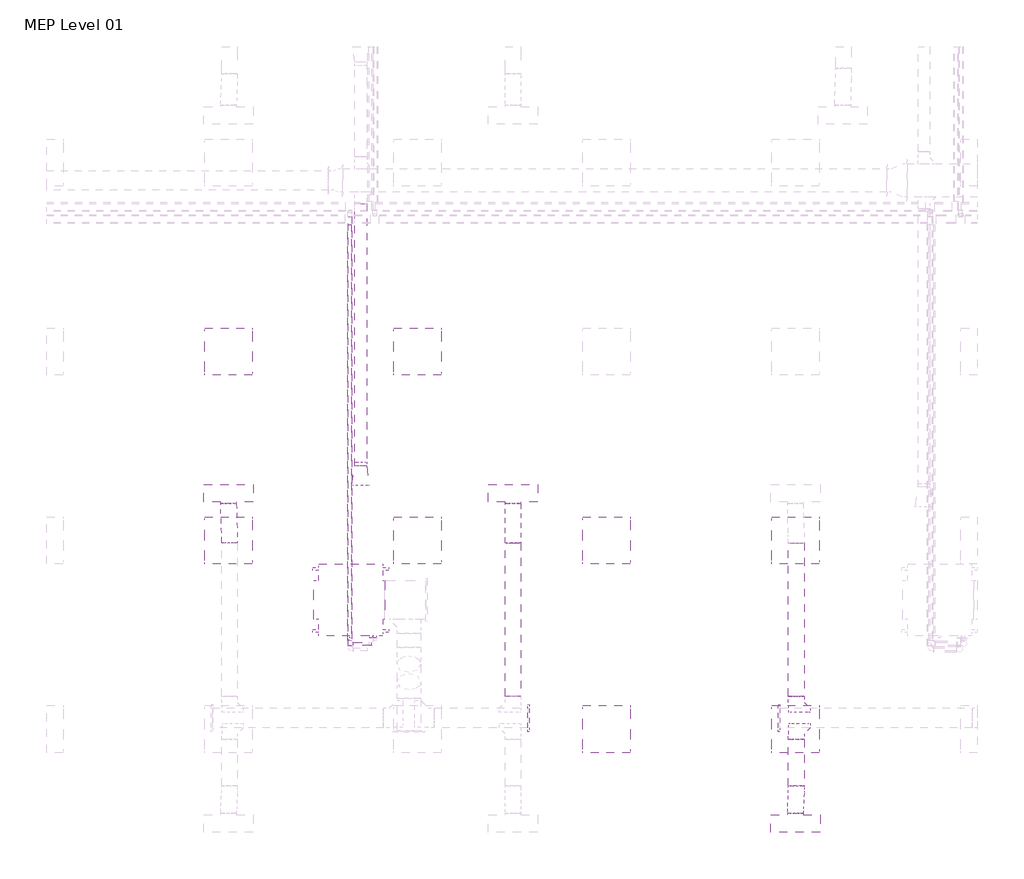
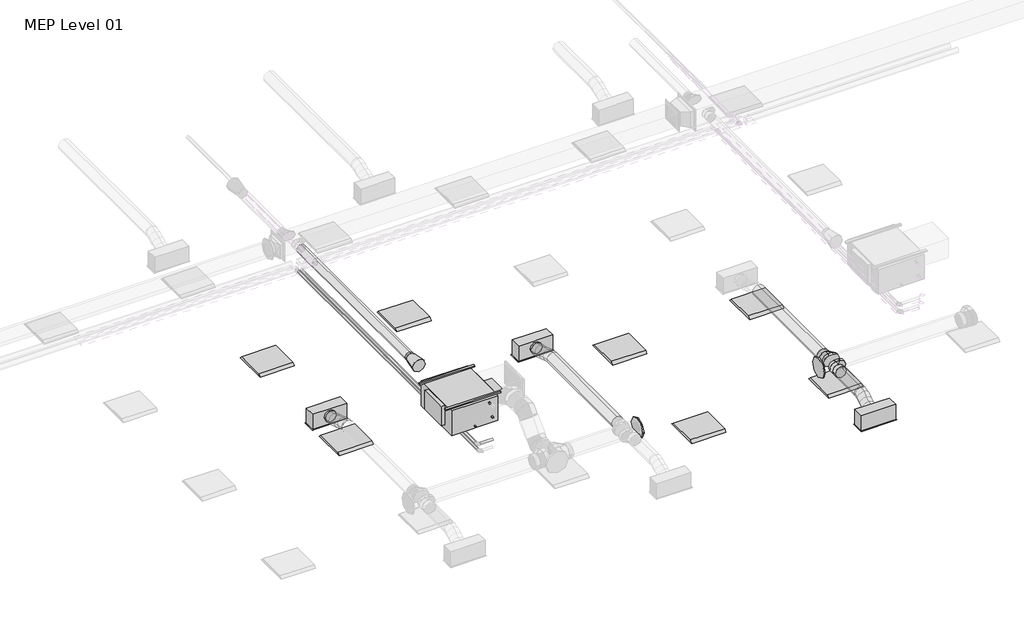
# One storey, part 7 of 29: 8 light fixtures, 7 duct segments, 4 air terminals, 4 duct fittings, 3 pipe segments, 1 proxy.
"""IFC4 building model written with IfcOpenShell, lengths in millimetres."""

from ifc_helpers import new_model, si_unit, point, frame, frame_2d, origin, place, context, project, spatial, circle_curve, ellipse_curve, trimmed, segment, composite_curve, outline, extrude, transform, mapped, element, save
from ifc_brep_helpers import plane_surface, cylinder_surface, advanced_brep
from components import air_terminal_0d1c431e, supply_diffuser_with_plenum_linear_slot_hosted_8c379eed, fan_coil_unit_ceiling_ducted_chw_376_lps_48d57206, dw144_round_blank_end_standard_9aa061e7, dw144_round_shoe_branch_slip_joint_standard_15a2edd8, light_fixture_600x600_230_1c7c1157, light_fixture_600x600_230_b730b5ca

model = new_model("IFC4")

# Units and contexts
model_context = context("Model", 3, world=origin())
ifc_project = project(units=[si_unit("LENGTHUNIT", "METRE", prefix="MILLI")], contexts=[model_context])

# Site, building, storey
site = spatial("IfcSite", under=ifc_project)
building = spatial("IfcBuilding", under=site)
storey = spatial("IfcBuildingStorey", under=building, Name="MEP Level 01", Elevation=3900.0)

# Air terminals
placement = place(None, origin())
air_terminal_shape = air_terminal_0d1c431e(model_context)
element("IfcAirTerminal", 1, ObjectType="Supply_Bell_Mouth_Grille : Supply_Bell_Mouth_Grille", at=placement, inside=storey, context=model_context, shape_type="MappedRepresentation", body=[
    mapped(air_terminal_shape, transform((18039.0080407, 5510.2561435, 7072.5), x_axis=(0.0, -1.0, 0.0), y_axis=(1.0, 0.0, 0.0), z_axis=(0.0, 0.0, 1.0))),
])
supply_diffuser_with_plenum_linear_slot_hosted_shape = supply_diffuser_with_plenum_linear_slot_hosted_8c379eed(model_context)
element("IfcAirTerminal", 2, ObjectType="Supply Diffuser with Plenum - Linear Slot - Hosted : 600mmx193.8mm-200 In Inlet  4-Slot", at=placement, inside=storey, context=model_context, shape_type="MappedRepresentation", body=[
    mapped(supply_diffuser_with_plenum_linear_slot_hosted_shape, transform((23562.2000027, 963.2000004, 6700.0), x_axis=(1.0, 0.0, 0.0), y_axis=(0.0, -1.0, 0.0), z_axis=(0.0, 0.0, -1.0))),
])
element("IfcAirTerminal", 3, ObjectType="Supply Diffuser with Plenum - Linear Slot - Hosted : 600mmx193.8mm-200 In Inlet  4-Slot", at=placement, inside=storey, context=model_context, shape_type="MappedRepresentation", body=[
    mapped(supply_diffuser_with_plenum_linear_slot_hosted_shape, transform((16362.2000027, 5163.2000004, 6700.0), x_axis=(-1.0, 0.0, 0.0), y_axis=(0.0, 1.0, 0.0), z_axis=(0.0, 0.0, -1.0))),
])
element("IfcAirTerminal", 4, ObjectType="Supply Diffuser with Plenum - Linear Slot - Hosted : 600mmx193.8mm-200 In Inlet  4-Slot", at=placement, inside=storey, context=model_context, shape_type="MappedRepresentation", body=[
    mapped(supply_diffuser_with_plenum_linear_slot_hosted_shape, transform((19973.9000022, 5163.2000004, 6700.0), x_axis=(-1.0, 0.0, 0.0), y_axis=(0.0, 1.0, 0.0), z_axis=(0.0, 0.0, -1.0))),
])

# Proxy
fan_coil_unit_ceiling_ducted_chw_376_lps_shape = fan_coil_unit_ceiling_ducted_chw_376_lps_48d57206(model_context)
element("IfcBuildingElementProxy", 5, Name="Fan Coil Unit - Ceiling Ducted - CHW : 376 LPS", ObjectType="Fan Coil Unit - Ceiling Ducted - CHW : 376 LPS", at=placement, inside=storey, context=model_context, shape_type="MappedRepresentation", body=[
    mapped(fan_coil_unit_ceiling_ducted_chw_376_lps_shape, transform((18321.2561025, 4263.2000004, 7122.3911538), x_axis=(0.0, -1.0, 0.0), y_axis=(1.0, 0.0, 0.0), z_axis=(0.0, 0.0, 1.0))),
])

# Duct fittings
dw144_round_blank_end_standard_shape = dw144_round_blank_end_standard_9aa061e7(model_context)
element("IfcDuctFitting", 6, ObjectType="DW144 Round Blank End : Standard", at=placement, inside=storey, context=model_context, shape_type="MappedRepresentation", body=[
    mapped(dw144_round_blank_end_standard_shape, transform((20161.4561025, 2306.5018192, 6972.2088531), x_axis=(1.0, 0.0, 0.0), y_axis=(0.0, 1.0, 0.0), z_axis=(0.0, 0.0, 1.0))),
])
element("IfcDuctFitting", 7, ObjectType="DW144 Round Blank End : Standard", at=placement, inside=storey, context=model_context, shape_type="MappedRepresentation", body=[
    mapped(dw144_round_blank_end_standard_shape, transform((23361.4561025, 2306.5018192, 6972.2088531), x_axis=(-1.0, 0.0, 0.0), y_axis=(0.0, -1.0, 0.0), z_axis=(0.0, 0.0, 1.0))),
])
dw144_round_shoe_branch_slip_joint_standard_shape = dw144_round_shoe_branch_slip_joint_standard_15a2edd8(model_context)
element("IfcDuctFitting", 8, ObjectType="DW144 Round Shoe Branch - Slip Joint : Standard", at=placement, inside=storey, context=model_context, shape_type="MappedRepresentation", body=[
    mapped(dw144_round_shoe_branch_slip_joint_standard_shape, transform((23573.9000022, 2181.5018192, 6972.2088531), x_axis=(0.0, -1.0, 0.0), y_axis=(-1.0, 0.0, 0.0), z_axis=(0.0, 0.0, -1.0))),
])
element("IfcDuctFitting", 9, ObjectType="DW144 Round Shoe Branch - Slip Joint : Standard", at=placement, inside=storey, context=model_context, shape_type="MappedRepresentation", body=[
    mapped(dw144_round_shoe_branch_slip_joint_standard_shape, transform((23573.9000022, 2431.5018192, 6972.2088531), x_axis=(0.0, 1.0, 0.0), y_axis=(-1.0, 0.0, 0.0), z_axis=(0.0, 0.0, 1.0))),
])

# Duct segments
element("IfcDuctSegment", 10, ObjectType="DW144 Segmented Bend / Shoe Branch", at=placement, inside=storey, context=model_context, shape_type="SweptSolid", body=[
    extrude(outline(composite_curve([segment(trimmed(circle_curve(frame_2d((6972.2088531, 19973.9000022)), 100.0), [point((6972.2088531, 20073.9000022))], [point((7072.2088531, 19973.9000022))], False, "CARTESIAN"), True, "CONTINUOUS"), segment(trimmed(circle_curve(frame_2d((6972.2088531, 19973.9000022)), 100.0), [point((7072.2088531, 19973.9000022))], [point((6972.2088531, 19873.9000022))], False, "CARTESIAN"), True, "CONTINUOUS"), segment(trimmed(circle_curve(frame_2d((6972.2088531, 19973.9000022)), 100.0), [point((6972.2088531, 19873.9000022))], [point((6872.2088531, 19973.9000022))], False, "CARTESIAN"), True, "CONTINUOUS"), segment(trimmed(circle_curve(frame_2d((6972.2088531, 19973.9000022)), 100.0), [point((6872.2088531, 19973.9000022))], [point((6972.2088531, 20073.9000022))], False, "CARTESIAN"), True, "CONTINUOUS")], self_intersect=False)), frame((0.0, 2581.5018192, 0.0), z_axis=(0.0, 1.0, 0.0), x_axis=(0.0, 0.0, 1.0)), (0.0, 0.0, 1.0), 1950.0),
])
element("IfcDuctSegment", 11, ObjectType="DW144 Segmented Bend / Shoe Branch", at=placement, inside=storey, context=model_context, shape_type="SweptSolid", body=[
    extrude(outline(composite_curve([segment(trimmed(circle_curve(frame_2d((6972.2088531, 23573.9000022)), 100.0), [point((6972.2088531, 23673.9000022))], [point((7072.2088531, 23573.9000022))], False, "CARTESIAN"), True, "CONTINUOUS"), segment(trimmed(circle_curve(frame_2d((6972.2088531, 23573.9000022)), 100.0), [point((7072.2088531, 23573.9000022))], [point((6972.2088531, 23473.9000022))], False, "CARTESIAN"), True, "CONTINUOUS"), segment(trimmed(circle_curve(frame_2d((6972.2088531, 23573.9000022)), 100.0), [point((6972.2088531, 23473.9000022))], [point((6872.2088531, 23573.9000022))], False, "CARTESIAN"), True, "CONTINUOUS"), segment(trimmed(circle_curve(frame_2d((6972.2088531, 23573.9000022)), 100.0), [point((6872.2088531, 23573.9000022))], [point((6972.2088531, 23673.9000022))], False, "CARTESIAN"), True, "CONTINUOUS")], self_intersect=False)), frame((0.0, 1441.5018192, 0.0), z_axis=(0.0, 1.0, 0.0), x_axis=(0.0, 0.0, 1.0)), (0.0, 0.0, 1.0), 590.0),
])
element("IfcDuctSegment", 12, ObjectType="DW144 Segmented Bend / Shoe Branch", at=placement, inside=storey, context=model_context, shape_type="SweptSolid", body=[
    extrude(outline(composite_curve([segment(trimmed(circle_curve(frame_2d((6972.2088531, 23573.9000022)), 100.0), [point((6972.2088531, 23673.9000022))], [point((7072.2088531, 23573.9000022))], False, "CARTESIAN"), True, "CONTINUOUS"), segment(trimmed(circle_curve(frame_2d((6972.2088531, 23573.9000022)), 100.0), [point((7072.2088531, 23573.9000022))], [point((6972.2088531, 23473.9000022))], False, "CARTESIAN"), True, "CONTINUOUS"), segment(trimmed(circle_curve(frame_2d((6972.2088531, 23573.9000022)), 100.0), [point((6972.2088531, 23473.9000022))], [point((6872.2088531, 23573.9000022))], False, "CARTESIAN"), True, "CONTINUOUS"), segment(trimmed(circle_curve(frame_2d((6972.2088531, 23573.9000022)), 100.0), [point((6872.2088531, 23573.9000022))], [point((6972.2088531, 23673.9000022))], False, "CARTESIAN"), True, "CONTINUOUS")], self_intersect=False)), frame((0.0, 2581.5018192, 0.0), z_axis=(0.0, 1.0, 0.0), x_axis=(0.0, 0.0, 1.0)), (0.0, 0.0, 1.0), 1950.0),
])
element("IfcDuctSegment", 13, ObjectType="DW144 Segmented Bend / Shoe Branch", at=placement, inside=storey, context=model_context, shape_type="SweptSolid", body=[
    extrude(outline(composite_curve([segment(trimmed(circle_curve(frame_2d((7072.5, 18039.0080407)), 75.0), [point((7072.5, 17964.0080407))], [point((6997.5, 18039.0080407))], False, "CARTESIAN"), True, "CONTINUOUS"), segment(trimmed(circle_curve(frame_2d((7072.5, 18039.0080407)), 75.0), [point((6997.5, 18039.0080407))], [point((7072.5, 18114.0080407))], False, "CARTESIAN"), True, "CONTINUOUS"), segment(trimmed(circle_curve(frame_2d((7072.5, 18039.0080407)), 75.0), [point((7072.5, 18114.0080407))], [point((7147.5, 18039.0080407))], False, "CARTESIAN"), True, "CONTINUOUS"), segment(trimmed(circle_curve(frame_2d((7072.5, 18039.0080407)), 75.0), [point((7147.5, 18039.0080407))], [point((7072.5, 17964.0080407))], False, "CARTESIAN"), True, "CONTINUOUS")], self_intersect=False)), frame((0.0, 5510.2561435, 0.0), z_axis=(0.0, 1.0, 0.0), x_axis=(0.0, 0.0, 1.0)), (0.0, 0.0, 1.0), 3329.1601689),
])
element("IfcDuctSegment", 14, ObjectType="Flex - Round", at=placement, inside=storey, context=model_context, shape_type="AdvancedBrep", body=[
    advanced_brep(
    [(16273.9000022, 4531.5018192, 6972.2088531), (16373.9000022, 4531.5018192, 6872.2088531), (16473.9000022, 4531.5018192, 6972.2088531), (16373.9000022, 4531.5018192, 7072.2088531), (16273.9000022, 4545.0398748, 6972.2088531), (16373.9000022, 4537.729612, 6872.2088531), (16473.9000022, 4546.6519942, 6972.2088531), (16373.9000022, 4553.962257, 7072.2088531), (16262.2000027, 5034.3000004, 6854.4), (16362.2000027, 5034.3000004, 6954.4), (16462.2000027, 5034.3000004, 6854.4), (16362.2000027, 5034.3000004, 6754.4), (16272.0969471, 4656.1396088, 6954.0536514), (16372.3243089, 4634.8198875, 6856.3429867), (16472.0468075, 4660.8412095, 6953.5487883), (16371.8194457, 4682.1609309, 7051.2594529), (16268.0984043, 4779.8283707, 6913.7917909), (16368.5373668, 4751.9631047, 6818.2117629), (16468.0016006, 4785.9734489, 6912.8170622), (16367.5626381, 4813.8387149, 7008.3970903), (16264.0531974, 4904.9606101, 6873.0600649), (16364.2805591, 4883.6408888, 6775.3494002), (16464.0030578, 4909.6622108, 6872.5552017), (16363.775696, 4930.9819322, 6970.2658664), (16262.2000027, 5019.1498254, 6854.4), (16362.2000027, 5011.8395627, 6754.4), (16462.2000027, 5020.7619448, 6854.4), (16362.2000027, 5028.0722076, 6954.4)],
    [
        (0, 1, circle_curve(frame((16373.9000022, 4531.5018192, 6972.2088531), z_axis=(0.0, -1.0, 0.0), x_axis=(-1.0, 0.0, 0.0)), 100.0)),
        (1, 2, circle_curve(frame((16373.9000022, 4531.5018192, 6972.2088531), z_axis=(0.0, -1.0, 0.0), x_axis=(-1.0, 0.0, 0.0)), 100.0)),
        (2, 3, circle_curve(frame((16373.9000022, 4531.5018192, 6972.2088531), z_axis=(0.0, -1.0, 0.0), x_axis=(-1.0, 0.0, 0.0)), 100.0)),
        (3, 0, circle_curve(frame((16373.9000022, 4531.5018192, 6972.2088531), z_axis=(0.0, -1.0, 0.0), x_axis=(-1.0, 0.0, 0.0)), 100.0)),
        (0, 4),
        (4, 5, ellipse_curve(frame((16373.9000022, 4545.8459345, 6972.2088531), z_axis=(0.008033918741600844, -0.9966902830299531, 0.08089459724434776), x_axis=(-0.09850014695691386, -0.08129255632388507, -0.9918110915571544)), 100.3320708, 100.0)),
        (5, 1),
        (5, 6, ellipse_curve(frame((16373.9000022, 4545.8459345, 6972.2088531), z_axis=(0.008033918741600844, -0.9966902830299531, 0.08089459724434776), x_axis=(-0.09850014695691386, -0.08129255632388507, -0.9918110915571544)), 100.3320708, 100.0)),
        (6, 2),
        (6, 7, ellipse_curve(frame((16373.9000022, 4545.8459345, 6972.2088531), z_axis=(0.008033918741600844, -0.9966902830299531, 0.08089459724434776), x_axis=(-0.09850014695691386, -0.08129255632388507, -0.9918110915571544)), 100.3320708, 100.0)),
        (7, 3),
        (7, 4, ellipse_curve(frame((16373.9000022, 4545.8459345, 6972.2088531), z_axis=(0.008033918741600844, -0.9966902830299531, 0.08089459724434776), x_axis=(-0.09850014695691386, -0.08129255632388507, -0.9918110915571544)), 100.3320708, 100.0)),
        (8, 9, circle_curve(frame((16362.2000027, 5034.3000004, 6854.4), z_axis=(0.0, 1.0, 0.0), x_axis=(-1.0, 0.0, 0.0)), 100.0)),
        (9, 10, circle_curve(frame((16362.2000027, 5034.3000004, 6854.4), z_axis=(0.0, 1.0, 0.0), x_axis=(-1.0, 0.0, 0.0)), 100.0)),
        (10, 11, circle_curve(frame((16362.2000027, 5034.3000004, 6854.4), z_axis=(0.0, 1.0, 0.0), x_axis=(-1.0, 0.0, 0.0)), 100.0)),
        (11, 8, circle_curve(frame((16362.2000027, 5034.3000004, 6854.4), z_axis=(0.0, 1.0, 0.0), x_axis=(-1.0, 0.0, 0.0)), 100.0)),
        (4, 12),
        (12, 13, ellipse_curve(frame((16372.0718773, 4658.4904092, 6953.8012198), z_axis=(0.023438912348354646, -0.9714680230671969, 0.2360095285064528), x_axis=(-0.09600750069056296, -0.23717057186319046, -0.9667123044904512)), 100.2947714, 100.0)),
        (13, 5),
        (13, 14, ellipse_curve(frame((16372.0718773, 4658.4904092, 6953.8012198), z_axis=(0.023438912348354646, -0.9714680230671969, 0.2360095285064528), x_axis=(-0.09600750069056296, -0.23717057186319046, -0.9667123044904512)), 100.2947714, 100.0)),
        (14, 6),
        (14, 15, ellipse_curve(frame((16372.0718773, 4658.4904092, 6953.8012198), z_axis=(0.023438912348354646, -0.9714680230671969, 0.2360095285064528), x_axis=(-0.09600750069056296, -0.23717057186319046, -0.9667123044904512)), 100.2947714, 100.0)),
        (15, 7),
        (15, 12, ellipse_curve(frame((16372.0718773, 4658.4904092, 6953.8012198), z_axis=(0.023438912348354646, -0.9714680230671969, 0.2360095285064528), x_axis=(-0.09600750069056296, -0.23717057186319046, -0.9667123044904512)), 100.2947714, 100.0)),
        (12, 16),
        (16, 17, circle_curve(frame((16368.0500024, 4782.9009098, 6913.3044266), z_axis=(0.03072539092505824, -0.9504426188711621, 0.30937805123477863), x_axis=(-0.999515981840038, -0.030725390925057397, 0.004873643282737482)), 100.0)),
        (17, 13),
        (17, 18, circle_curve(frame((16368.0500024, 4782.9009098, 6913.3044266), z_axis=(0.03072539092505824, -0.9504426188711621, 0.30937805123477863), x_axis=(-0.999515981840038, -0.030725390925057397, 0.004873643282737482)), 100.0)),
        (18, 14),
        (18, 19, circle_curve(frame((16368.0500024, 4782.9009098, 6913.3044266), z_axis=(0.03072539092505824, -0.9504426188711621, 0.30937805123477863), x_axis=(-0.999515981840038, -0.030725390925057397, 0.004873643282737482)), 100.0)),
        (19, 15),
        (19, 16, circle_curve(frame((16368.0500024, 4782.9009098, 6913.3044266), z_axis=(0.03072539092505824, -0.9504426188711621, 0.30937805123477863), x_axis=(-0.999515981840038, -0.030725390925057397, 0.004873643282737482)), 100.0)),
        (16, 20),
        (20, 21, ellipse_curve(frame((16364.0281276, 4907.3114105, 6872.8076333), z_axis=(0.023438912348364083, -0.9714680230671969, 0.23600952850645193), x_axis=(0.0960075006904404, 0.23717057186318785, 0.966712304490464)), 100.2947714, 100.0)),
        (21, 17),
        (21, 22, ellipse_curve(frame((16364.0281276, 4907.3114105, 6872.8076333), z_axis=(0.023438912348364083, -0.9714680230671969, 0.23600952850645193), x_axis=(0.0960075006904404, 0.23717057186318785, 0.966712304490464)), 100.2947714, 100.0)),
        (22, 18),
        (22, 23, ellipse_curve(frame((16364.0281276, 4907.3114105, 6872.8076333), z_axis=(0.023438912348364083, -0.9714680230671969, 0.23600952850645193), x_axis=(0.0960075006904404, 0.23717057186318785, 0.966712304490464)), 100.2947714, 100.0)),
        (23, 19),
        (23, 20, ellipse_curve(frame((16364.0281276, 4907.3114105, 6872.8076333), z_axis=(0.023438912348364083, -0.9714680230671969, 0.23600952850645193), x_axis=(0.0960075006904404, 0.23717057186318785, 0.966712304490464)), 100.2947714, 100.0)),
        (20, 24),
        (24, 25, ellipse_curve(frame((16362.2000027, 5019.9558851, 6854.4), z_axis=(0.008033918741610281, -0.9966902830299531, 0.08089459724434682), x_axis=(0.09850014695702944, 0.0812925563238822, 0.9918110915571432)), 100.3320708, 100.0)),
        (25, 21),
        (25, 26, ellipse_curve(frame((16362.2000027, 5019.9558851, 6854.4), z_axis=(0.008033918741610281, -0.9966902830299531, 0.08089459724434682), x_axis=(0.09850014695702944, 0.0812925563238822, 0.9918110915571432)), 100.3320708, 100.0)),
        (26, 22),
        (26, 27, ellipse_curve(frame((16362.2000027, 5019.9558851, 6854.4), z_axis=(0.008033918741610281, -0.9966902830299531, 0.08089459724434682), x_axis=(0.09850014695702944, 0.0812925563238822, 0.9918110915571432)), 100.3320708, 100.0)),
        (27, 23),
        (27, 24, ellipse_curve(frame((16362.2000027, 5019.9558851, 6854.4), z_axis=(0.008033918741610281, -0.9966902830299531, 0.08089459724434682), x_axis=(0.09850014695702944, 0.0812925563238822, 0.9918110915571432)), 100.3320708, 100.0)),
        (24, 8),
        (11, 25),
        (10, 26),
        (9, 27),
    ],
    [
        plane_surface(frame((16273.9000022, 4531.5018192, 6972.2088531), z_axis=(0.0, -1.0, 0.0), x_axis=(0.0, 0.0, 1.0))),
        cylinder_surface(frame((16373.9000022, 4531.5018192, 6972.2088531), z_axis=(0.0, -1.0, 0.0), x_axis=(-1.0, 0.0, 0.0)), 100.0),
        plane_surface(frame((16262.2000027, 5034.3000004, 6854.4), z_axis=(0.0, 1.0, 0.0), x_axis=(0.0, 0.0, 1.0))),
        cylinder_surface(frame((16373.9000022, 4545.8459345, 6972.2088531), z_axis=(0.01601465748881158, -0.9867830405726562, 0.16125371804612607), x_axis=(-0.9998709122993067, -0.01601465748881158, 0.0012998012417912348)), 100.0),
        cylinder_surface(frame((16372.0718773, 4658.4904092, 6953.8012198), z_axis=(0.03072539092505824, -0.9504426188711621, 0.30937805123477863), x_axis=(-0.999515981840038, -0.030725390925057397, 0.004873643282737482)), 100.0),
        cylinder_surface(frame((16368.0500024, 4782.9009098, 6913.3044266), z_axis=(0.030725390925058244, -0.9504426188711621, 0.30937805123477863), x_axis=(-0.999515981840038, -0.0307253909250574, 0.0048736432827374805)), 100.0),
        cylinder_surface(frame((16364.0281276, 4907.3114105, 6872.8076333), z_axis=(0.016014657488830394, -0.9867830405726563, 0.16125371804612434), x_axis=(-0.9998709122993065, -0.016014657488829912, 0.0012998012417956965)), 100.0),
        cylinder_surface(frame((16362.2000027, 5019.9558851, 6854.4), z_axis=(0.0, -1.0, 0.0), x_axis=(-1.0, 0.0, 0.0)), 100.0),
    ],
    [
        (0, [[1, 2, 3, 4]]),
        (1, [[-1, 5, 6, 7]]),
        (1, [[-2, -7, 8, 9]]),
        (1, [[-3, -9, 10, 11]]),
        (1, [[-4, -11, 12, -5]]),
        (2, [[13, 14, 15, 16]]),
        (3, [[-6, 17, 18, 19]]),
        (3, [[-8, -19, 20, 21]]),
        (3, [[-10, -21, 22, 23]]),
        (3, [[-12, -23, 24, -17]]),
        (4, [[-18, 25, 26, 27]]),
        (4, [[-20, -27, 28, 29]]),
        (4, [[-22, -29, 30, 31]]),
        (4, [[-24, -31, 32, -25]]),
        (5, [[-26, 33, 34, 35]]),
        (5, [[-28, -35, 36, 37]]),
        (5, [[-30, -37, 38, 39]]),
        (5, [[-32, -39, 40, -33]]),
        (6, [[-34, 41, 42, 43]]),
        (6, [[-36, -43, 44, 45]]),
        (6, [[-38, -45, 46, 47]]),
        (6, [[-40, -47, 48, -41]]),
        (7, [[-42, 49, -16, 50]]),
        (7, [[-44, -50, -15, 51]]),
        (7, [[-46, -51, -14, 52]]),
        (7, [[-48, -52, -13, -49]]),
    ],
),
])
element("IfcDuctSegment", 15, ObjectType="Flex - Round", at=placement, inside=storey, context=model_context, shape_type="AdvancedBrep", body=[
    advanced_brep(
    [(19873.9000022, 4531.5018192, 6972.2088531), (19973.9000022, 4531.5018192, 6872.2088531), (20073.9000022, 4531.5018192, 6972.2088531), (19973.9000022, 4531.5018192, 7072.2088531), (19873.9000022, 4545.8487649, 6972.2088531), (19973.9000022, 4537.7308336, 6872.2088531), (20073.9000022, 4545.8487649, 6972.2088531), (19973.9000022, 4553.9666963, 7072.2088531), (19873.9000022, 5034.3000004, 6854.4), (19973.9000022, 5034.3000004, 6954.4), (20073.9000022, 5034.3000004, 6854.4), (19973.9000022, 5034.3000004, 6754.4), (19873.9000022, 4658.4779853, 6953.8012198), (19973.9000022, 4634.8007072, 6856.3441723), (20073.9000022, 4658.4779853, 6953.8012198), (19973.9000022, 4682.1552634, 7051.2582674), (19873.9000022, 4782.9009098, 6913.3044266), (19973.9000022, 4751.9512855, 6818.21436), (20073.9000022, 4782.9009098, 6913.3044266), (19973.9000022, 4813.8505341, 7008.3944931), (19873.9000022, 4907.3238344, 6872.8076333), (19973.9000022, 4883.6465563, 6775.3505857), (20073.9000022, 4907.3238344, 6872.8076333), (19973.9000022, 4931.0011125, 6970.2646809), (19873.9000022, 5019.9530547, 6854.4), (19973.9000022, 5011.8351234, 6754.4), (20073.9000022, 5019.9530547, 6854.4), (19973.9000022, 5028.070986, 6954.4)],
    [
        (0, 1, circle_curve(frame((19973.9000022, 4531.5018192, 6972.2088531), z_axis=(0.0, -1.0, 0.0), x_axis=(-1.0, 0.0, 0.0)), 100.0)),
        (1, 2, circle_curve(frame((19973.9000022, 4531.5018192, 6972.2088531), z_axis=(0.0, -1.0, 0.0), x_axis=(-1.0, 0.0, 0.0)), 100.0)),
        (2, 3, circle_curve(frame((19973.9000022, 4531.5018192, 6972.2088531), z_axis=(0.0, -1.0, 0.0), x_axis=(-1.0, 0.0, 0.0)), 100.0)),
        (3, 0, circle_curve(frame((19973.9000022, 4531.5018192, 6972.2088531), z_axis=(0.0, -1.0, 0.0), x_axis=(-1.0, 0.0, 0.0)), 100.0)),
        (0, 4),
        (4, 5, ellipse_curve(frame((19973.9000022, 4545.8487649, 6972.2088531), z_axis=(0.0, -0.9967211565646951, 0.08091313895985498), x_axis=(0.0, -0.08091313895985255, -0.9967211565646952)), 100.328963, 100.0)),
        (5, 1),
        (5, 6, ellipse_curve(frame((19973.9000022, 4545.8487649, 6972.2088531), z_axis=(0.0, -0.9967211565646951, 0.08091313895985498), x_axis=(0.0, -0.08091313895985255, -0.9967211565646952)), 100.328963, 100.0)),
        (6, 2),
        (6, 7, ellipse_curve(frame((19973.9000022, 4545.8487649, 6972.2088531), z_axis=(0.0, -0.9967211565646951, 0.08091313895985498), x_axis=(0.0, -0.08091313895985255, -0.9967211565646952)), 100.328963, 100.0)),
        (7, 3),
        (7, 4, ellipse_curve(frame((19973.9000022, 4545.8487649, 6972.2088531), z_axis=(0.0, -0.9967211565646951, 0.08091313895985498), x_axis=(0.0, -0.08091313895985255, -0.9967211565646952)), 100.328963, 100.0)),
        (8, 9, circle_curve(frame((19973.9000022, 5034.3000004, 6854.4), z_axis=(0.0, 1.0, 0.0), x_axis=(-1.0, 0.0, 0.0)), 100.0)),
        (9, 10, circle_curve(frame((19973.9000022, 5034.3000004, 6854.4), z_axis=(0.0, 1.0, 0.0), x_axis=(-1.0, 0.0, 0.0)), 100.0)),
        (10, 11, circle_curve(frame((19973.9000022, 5034.3000004, 6854.4), z_axis=(0.0, 1.0, 0.0), x_axis=(-1.0, 0.0, 0.0)), 100.0)),
        (11, 8, circle_curve(frame((19973.9000022, 5034.3000004, 6854.4), z_axis=(0.0, 1.0, 0.0), x_axis=(-1.0, 0.0, 0.0)), 100.0)),
        (4, 12),
        (12, 13, ellipse_curve(frame((19973.9000022, 4658.4779853, 6953.8012198), z_axis=(0.0, -0.9717328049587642, 0.23608336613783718), x_axis=(0.0, -0.23608336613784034, -0.9717328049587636)), 100.2920217, 100.0)),
        (13, 5),
        (13, 14, ellipse_curve(frame((19973.9000022, 4658.4779853, 6953.8012198), z_axis=(0.0, -0.9717328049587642, 0.23608336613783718), x_axis=(0.0, -0.23608336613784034, -0.9717328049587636)), 100.2920217, 100.0)),
        (14, 6),
        (14, 15, ellipse_curve(frame((19973.9000022, 4658.4779853, 6953.8012198), z_axis=(0.0, -0.9717328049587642, 0.23608336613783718), x_axis=(0.0, -0.23608336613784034, -0.9717328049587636)), 100.2920217, 100.0)),
        (15, 7),
        (15, 12, ellipse_curve(frame((19973.9000022, 4658.4779853, 6953.8012198), z_axis=(0.0, -0.9717328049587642, 0.23608336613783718), x_axis=(0.0, -0.23608336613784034, -0.9717328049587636)), 100.2920217, 100.0)),
        (12, 16),
        (16, 17, circle_curve(frame((19973.9000022, 4782.9009098, 6913.3044266), z_axis=(0.0, -0.9509006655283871, 0.3094962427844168), x_axis=(-1.0, 0.0, 0.0)), 100.0)),
        (17, 13),
        (17, 18, circle_curve(frame((19973.9000022, 4782.9009098, 6913.3044266), z_axis=(0.0, -0.9509006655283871, 0.3094962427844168), x_axis=(-1.0, 0.0, 0.0)), 100.0)),
        (18, 14),
        (18, 19, circle_curve(frame((19973.9000022, 4782.9009098, 6913.3044266), z_axis=(0.0, -0.9509006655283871, 0.3094962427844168), x_axis=(-1.0, 0.0, 0.0)), 100.0)),
        (19, 15),
        (19, 16, circle_curve(frame((19973.9000022, 4782.9009098, 6913.3044266), z_axis=(0.0, -0.9509006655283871, 0.3094962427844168), x_axis=(-1.0, 0.0, 0.0)), 100.0)),
        (16, 20),
        (20, 21, ellipse_curve(frame((19973.9000022, 4907.3238344, 6872.8076333), z_axis=(0.0, -0.9717328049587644, 0.23608336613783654), x_axis=(0.0, 0.2360833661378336, 0.9717328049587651)), 100.2920217, 100.0)),
        (21, 17),
        (21, 22, ellipse_curve(frame((19973.9000022, 4907.3238344, 6872.8076333), z_axis=(0.0, -0.9717328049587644, 0.23608336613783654), x_axis=(0.0, 0.2360833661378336, 0.9717328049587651)), 100.2920217, 100.0)),
        (22, 18),
        (22, 23, ellipse_curve(frame((19973.9000022, 4907.3238344, 6872.8076333), z_axis=(0.0, -0.9717328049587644, 0.23608336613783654), x_axis=(0.0, 0.2360833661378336, 0.9717328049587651)), 100.2920217, 100.0)),
        (23, 19),
        (23, 20, ellipse_curve(frame((19973.9000022, 4907.3238344, 6872.8076333), z_axis=(0.0, -0.9717328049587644, 0.23608336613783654), x_axis=(0.0, 0.2360833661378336, 0.9717328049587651)), 100.2920217, 100.0)),
        (20, 24),
        (24, 25, ellipse_curve(frame((19973.9000022, 5019.9530547, 6854.4), z_axis=(0.0, -0.9967211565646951, 0.08091313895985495), x_axis=(0.0, 0.08091313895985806, 0.9967211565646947)), 100.328963, 100.0)),
        (25, 21),
        (25, 26, ellipse_curve(frame((19973.9000022, 5019.9530547, 6854.4), z_axis=(0.0, -0.9967211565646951, 0.08091313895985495), x_axis=(0.0, 0.08091313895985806, 0.9967211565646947)), 100.328963, 100.0)),
        (26, 22),
        (26, 27, ellipse_curve(frame((19973.9000022, 5019.9530547, 6854.4), z_axis=(0.0, -0.9967211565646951, 0.08091313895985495), x_axis=(0.0, 0.08091313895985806, 0.9967211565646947)), 100.328963, 100.0)),
        (27, 23),
        (27, 24, ellipse_curve(frame((19973.9000022, 5019.9530547, 6854.4), z_axis=(0.0, -0.9967211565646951, 0.08091313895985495), x_axis=(0.0, 0.08091313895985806, 0.9967211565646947)), 100.328963, 100.0)),
        (24, 8),
        (11, 25),
        (10, 26),
        (9, 27),
    ],
    [
        plane_surface(frame((19873.9000022, 4531.5018192, 6972.2088531), z_axis=(0.0, -1.0, 0.0), x_axis=(0.0, 0.0, 1.0))),
        cylinder_surface(frame((19973.9000022, 4531.5018192, 6972.2088531), z_axis=(0.0, -1.0, 0.0), x_axis=(-1.0, 0.0, 0.0)), 100.0),
        plane_surface(frame((19873.9000022, 5034.3000004, 6854.4), z_axis=(0.0, 1.0, 0.0), x_axis=(0.0, 0.0, 1.0))),
        cylinder_surface(frame((19973.9000022, 4545.8487649, 6972.2088531), z_axis=(0.0, -0.9869061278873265, 0.16129567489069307), x_axis=(-1.0, 0.0, 0.0)), 100.0),
        cylinder_surface(frame((19973.9000022, 4658.4779853, 6953.8012198), z_axis=(0.0, -0.9509006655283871, 0.3094962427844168), x_axis=(-1.0, 0.0, 0.0)), 100.0),
        cylinder_surface(frame((19973.9000022, 4782.9009098, 6913.3044266), z_axis=(0.0, -0.9509006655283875, 0.30949624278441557), x_axis=(-1.0, 0.0, 0.0)), 100.0),
        cylinder_surface(frame((19973.9000022, 4907.3238344, 6872.8076333), z_axis=(0.0, -0.9869061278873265, 0.16129567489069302), x_axis=(-1.0, 0.0, 0.0)), 100.0),
        cylinder_surface(frame((19973.9000022, 5019.9530547, 6854.4), z_axis=(0.0, -1.0, 0.0), x_axis=(-1.0, 0.0, 0.0)), 100.0),
    ],
    [
        (0, [[1, 2, 3, 4]]),
        (1, [[-1, 5, 6, 7]]),
        (1, [[-2, -7, 8, 9]]),
        (1, [[-3, -9, 10, 11]]),
        (1, [[-4, -11, 12, -5]]),
        (2, [[13, 14, 15, 16]]),
        (3, [[-6, 17, 18, 19]]),
        (3, [[-8, -19, 20, 21]]),
        (3, [[-10, -21, 22, 23]]),
        (3, [[-12, -23, 24, -17]]),
        (4, [[-18, 25, 26, 27]]),
        (4, [[-20, -27, 28, 29]]),
        (4, [[-22, -29, 30, 31]]),
        (4, [[-24, -31, 32, -25]]),
        (5, [[-26, 33, 34, 35]]),
        (5, [[-28, -35, 36, 37]]),
        (5, [[-30, -37, 38, 39]]),
        (5, [[-32, -39, 40, -33]]),
        (6, [[-34, 41, 42, 43]]),
        (6, [[-36, -43, 44, 45]]),
        (6, [[-38, -45, 46, 47]]),
        (6, [[-40, -47, 48, -41]]),
        (7, [[-42, 49, -16, 50]]),
        (7, [[-44, -50, -15, 51]]),
        (7, [[-46, -51, -14, 52]]),
        (7, [[-48, -52, -13, -49]]),
    ],
),
])
element("IfcDuctSegment", 16, ObjectType="Flex - Round", at=placement, inside=storey, context=model_context, shape_type="AdvancedBrep", body=[
    advanced_brep(
    [(23673.9000022, 1441.5018192, 6972.2088531), (23573.9000022, 1441.5018192, 6872.2088531), (23473.9000022, 1441.5018192, 6972.2088531), (23573.9000022, 1441.5018192, 7072.2088531), (23673.9000022, 1419.9886644, 6972.2088531), (23573.9000022, 1434.4041273, 6872.2088531), (23473.9000022, 1422.5932881, 6972.2088531), (23573.9000022, 1408.1778252, 7072.2088531), (23662.2000027, 1092.1000004, 6854.4), (23562.2000027, 1092.1000004, 6954.4), (23462.2000027, 1092.1000004, 6854.4), (23562.2000027, 1092.1000004, 6754.4), (23672.0154345, 1348.8904029, 6953.2328893), (23572.6402079, 1386.8764181, 6859.5238159), (23472.1283201, 1355.7538157, 6954.3695504), (23571.5035467, 1317.7678004, 7048.0786237), (23667.9552415, 1262.5544078, 6912.3502664), (23569.0041626, 1309.5595036, 6822.9119919), (23468.1447633, 1271.0474118, 6914.2585867), (23567.0958423, 1224.0423161, 7003.6968612), (23663.9716847, 1177.8480039, 6872.2393027), (23564.5964582, 1215.8340192, 6778.5302294), (23464.0845704, 1184.7114168, 6873.3759639), (23563.459797, 1146.7254015, 6967.0850372), (23662.2000027, 1111.0085316, 6854.4), (23562.2000027, 1125.4239944, 6754.4), (23462.2000027, 1113.6131552, 6854.4), (23562.2000027, 1099.1976924, 6954.4)],
    [
        (0, 1, circle_curve(frame((23573.9000022, 1441.5018192, 6972.2088531), z_axis=(0.0, 1.0, 0.0), x_axis=(1.0, 0.0, 0.0)), 100.0)),
        (1, 2, circle_curve(frame((23573.9000022, 1441.5018192, 6972.2088531), z_axis=(0.0, 1.0, 0.0), x_axis=(1.0, 0.0, 0.0)), 100.0)),
        (2, 3, circle_curve(frame((23573.9000022, 1441.5018192, 6972.2088531), z_axis=(0.0, 1.0, 0.0), x_axis=(1.0, 0.0, 0.0)), 100.0)),
        (3, 0, circle_curve(frame((23573.9000022, 1441.5018192, 6972.2088531), z_axis=(0.0, 1.0, 0.0), x_axis=(1.0, 0.0, 0.0)), 100.0)),
        (0, 4),
        (4, 5, ellipse_curve(frame((23573.9000022, 1421.2909763, 6972.2088531), z_axis=(0.012911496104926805, 0.991428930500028, 0.13000757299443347), x_axis=(-0.0979801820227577, 0.13064714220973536, -0.986575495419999)), 100.8645168, 100.0)),
        (5, 1),
        (5, 6, ellipse_curve(frame((23573.9000022, 1421.2909763, 6972.2088531), z_axis=(0.012911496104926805, 0.991428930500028, 0.13000757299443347), x_axis=(-0.0979801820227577, 0.13064714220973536, -0.986575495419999)), 100.8645168, 100.0)),
        (6, 2),
        (6, 7, ellipse_curve(frame((23573.9000022, 1421.2909763, 6972.2088531), z_axis=(0.012911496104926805, 0.991428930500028, 0.13000757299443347), x_axis=(-0.0979801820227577, 0.13064714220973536, -0.986575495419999)), 100.8645168, 100.0)),
        (7, 3),
        (7, 4, ellipse_curve(frame((23573.9000022, 1421.2909763, 6972.2088531), z_axis=(0.012911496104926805, 0.991428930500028, 0.13000757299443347), x_axis=(-0.0979801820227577, 0.13064714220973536, -0.986575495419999)), 100.8645168, 100.0)),
        (8, 9, circle_curve(frame((23562.2000027, 1092.1000004, 6854.4), z_axis=(0.0, -1.0, 0.0), x_axis=(1.0, 0.0, 0.0)), 100.0)),
        (9, 10, circle_curve(frame((23562.2000027, 1092.1000004, 6854.4), z_axis=(0.0, -1.0, 0.0), x_axis=(1.0, 0.0, 0.0)), 100.0)),
        (10, 11, circle_curve(frame((23562.2000027, 1092.1000004, 6854.4), z_axis=(0.0, -1.0, 0.0), x_axis=(1.0, 0.0, 0.0)), 100.0)),
        (11, 8, circle_curve(frame((23562.2000027, 1092.1000004, 6854.4), z_axis=(0.0, -1.0, 0.0), x_axis=(1.0, 0.0, 0.0)), 100.0)),
        (4, 12),
        (12, 13, ellipse_curve(frame((23572.0718773, 1352.3221093, 6953.8012198), z_axis=(0.03417490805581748, 0.9383065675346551, 0.34411169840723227), x_axis=(-0.09273024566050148, 0.34580454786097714, -0.9337131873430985)), 100.4159667, 100.0)),
        (13, 5),
        (13, 14, ellipse_curve(frame((23572.0718773, 1352.3221093, 6953.8012198), z_axis=(0.03417490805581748, 0.9383065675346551, 0.34411169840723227), x_axis=(-0.09273024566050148, 0.34580454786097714, -0.9337131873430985)), 100.4159667, 100.0)),
        (14, 6),
        (14, 15, ellipse_curve(frame((23572.0718773, 1352.3221093, 6953.8012198), z_axis=(0.03417490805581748, 0.9383065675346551, 0.34411169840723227), x_axis=(-0.09273024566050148, 0.34580454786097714, -0.9337131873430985)), 100.4159667, 100.0)),
        (15, 7),
        (15, 12, ellipse_curve(frame((23572.0718773, 1352.3221093, 6953.8012198), z_axis=(0.03417490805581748, 0.9383065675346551, 0.34411169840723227), x_axis=(-0.09273024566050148, 0.34580454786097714, -0.9337131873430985)), 100.4159667, 100.0)),
        (12, 16),
        (16, 17, circle_curve(frame((23568.0500024, 1266.8009098, 6913.3044266), z_axis=(0.042465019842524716, 0.9029767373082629, 0.42758593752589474), x_axis=(0.9990523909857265, -0.042465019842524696, -0.009541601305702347)), 100.0)),
        (17, 13),
        (17, 18, circle_curve(frame((23568.0500024, 1266.8009098, 6913.3044266), z_axis=(0.042465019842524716, 0.9029767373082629, 0.42758593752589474), x_axis=(0.9990523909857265, -0.042465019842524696, -0.009541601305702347)), 100.0)),
        (18, 14),
        (18, 19, circle_curve(frame((23568.0500024, 1266.8009098, 6913.3044266), z_axis=(0.042465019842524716, 0.9029767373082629, 0.42758593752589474), x_axis=(0.9990523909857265, -0.042465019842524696, -0.009541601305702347)), 100.0)),
        (19, 15),
        (19, 16, circle_curve(frame((23568.0500024, 1266.8009098, 6913.3044266), z_axis=(0.042465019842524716, 0.9029767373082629, 0.42758593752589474), x_axis=(0.9990523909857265, -0.042465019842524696, -0.009541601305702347)), 100.0)),
        (16, 20),
        (20, 21, ellipse_curve(frame((23564.0281276, 1181.2797104, 6872.8076333), z_axis=(0.034174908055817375, 0.9383065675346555, 0.3441116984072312), x_axis=(0.09273024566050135, -0.345804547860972, 0.9337131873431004)), 100.4159667, 100.0)),
        (21, 17),
        (21, 22, ellipse_curve(frame((23564.0281276, 1181.2797104, 6872.8076333), z_axis=(0.034174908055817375, 0.9383065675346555, 0.3441116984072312), x_axis=(0.09273024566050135, -0.345804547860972, 0.9337131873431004)), 100.4159667, 100.0)),
        (22, 18),
        (22, 23, ellipse_curve(frame((23564.0281276, 1181.2797104, 6872.8076333), z_axis=(0.034174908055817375, 0.9383065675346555, 0.3441116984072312), x_axis=(0.09273024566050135, -0.345804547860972, 0.9337131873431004)), 100.4159667, 100.0)),
        (23, 19),
        (23, 20, ellipse_curve(frame((23564.0281276, 1181.2797104, 6872.8076333), z_axis=(0.034174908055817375, 0.9383065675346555, 0.3441116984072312), x_axis=(0.09273024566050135, -0.345804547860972, 0.9337131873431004)), 100.4159667, 100.0)),
        (20, 24),
        (24, 25, ellipse_curve(frame((23562.2000027, 1112.3108434, 6854.4), z_axis=(0.012911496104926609, 0.9914289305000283, 0.13000757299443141), x_axis=(0.09798018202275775, -0.1306471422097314, 0.9865754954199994)), 100.8645168, 100.0)),
        (25, 21),
        (25, 26, ellipse_curve(frame((23562.2000027, 1112.3108434, 6854.4), z_axis=(0.012911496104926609, 0.9914289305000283, 0.13000757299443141), x_axis=(0.09798018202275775, -0.1306471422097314, 0.9865754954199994)), 100.8645168, 100.0)),
        (26, 22),
        (26, 27, ellipse_curve(frame((23562.2000027, 1112.3108434, 6854.4), z_axis=(0.012911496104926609, 0.9914289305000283, 0.13000757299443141), x_axis=(0.09798018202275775, -0.1306471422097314, 0.9865754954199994)), 100.8645168, 100.0)),
        (27, 23),
        (27, 24, ellipse_curve(frame((23562.2000027, 1112.3108434, 6854.4), z_axis=(0.012911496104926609, 0.9914289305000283, 0.13000757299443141), x_axis=(0.09798018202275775, -0.1306471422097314, 0.9865754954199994)), 100.8645168, 100.0)),
        (24, 8),
        (11, 25),
        (10, 26),
        (9, 27),
    ],
    [
        plane_surface(frame((23473.9000022, 1441.5018192, 6972.2088531), z_axis=(0.0, 1.0, 0.0), x_axis=(0.0, 0.0, -1.0))),
        cylinder_surface(frame((23573.9000022, 1441.5018192, 6972.2088531), z_axis=(0.0, 1.0, 0.0), x_axis=(1.0, 0.0, 0.0)), 100.0),
        plane_surface(frame((23462.2000027, 1092.1000004, 6854.4), z_axis=(0.0, -1.0, 0.0), x_axis=(0.0, 0.0, -1.0))),
        cylinder_surface(frame((23573.9000022, 1421.2909763, 6972.2088531), z_axis=(0.025601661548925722, 0.9658626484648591, 0.25778653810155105), x_axis=(0.999666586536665, -0.025601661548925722, -0.00335718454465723)), 100.0),
        cylinder_surface(frame((23572.0718773, 1352.3221093, 6953.8012198), z_axis=(0.042465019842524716, 0.9029767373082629, 0.42758593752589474), x_axis=(0.9990523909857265, -0.042465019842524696, -0.009541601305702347)), 100.0),
        cylinder_surface(frame((23568.0500024, 1266.8009098, 6913.3044266), z_axis=(0.042465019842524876, 0.9029767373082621, 0.42758593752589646), x_axis=(0.9990523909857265, -0.04246501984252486, -0.009541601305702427)), 100.0),
        cylinder_surface(frame((23564.0281276, 1181.2797104, 6872.8076333), z_axis=(0.02560166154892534, 0.9658626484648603, 0.2577865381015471), x_axis=(0.9996665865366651, -0.02560166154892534, -0.0033571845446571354)), 100.0),
        cylinder_surface(frame((23562.2000027, 1112.3108434, 6854.4), z_axis=(0.0, 1.0, 0.0), x_axis=(1.0, 0.0, 0.0)), 100.0),
    ],
    [
        (0, [[1, 2, 3, 4]]),
        (1, [[-1, 5, 6, 7]]),
        (1, [[-2, -7, 8, 9]]),
        (1, [[-3, -9, 10, 11]]),
        (1, [[-4, -11, 12, -5]]),
        (2, [[13, 14, 15, 16]]),
        (3, [[-6, 17, 18, 19]]),
        (3, [[-8, -19, 20, 21]]),
        (3, [[-10, -21, 22, 23]]),
        (3, [[-12, -23, 24, -17]]),
        (4, [[-18, 25, 26, 27]]),
        (4, [[-20, -27, 28, 29]]),
        (4, [[-22, -29, 30, 31]]),
        (4, [[-24, -31, 32, -25]]),
        (5, [[-26, 33, 34, 35]]),
        (5, [[-28, -35, 36, 37]]),
        (5, [[-30, -37, 38, 39]]),
        (5, [[-32, -39, 40, -33]]),
        (6, [[-34, 41, 42, 43]]),
        (6, [[-36, -43, 44, 45]]),
        (6, [[-38, -45, 46, 47]]),
        (6, [[-40, -47, 48, -41]]),
        (7, [[-42, 49, -16, 50]]),
        (7, [[-44, -50, -15, 51]]),
        (7, [[-46, -51, -14, 52]]),
        (7, [[-48, -52, -13, -49]]),
    ],
),
])

# Light fixtures
light_fixture_600x600_230_shape = light_fixture_600x600_230_1c7c1157(model_context)
element("IfcLightFixture", 17, ObjectType="ELEKTRA Recessed Lighting Fixture : 600x600 - 230", at=placement, inside=storey, context=model_context, shape_type="MappedRepresentation", body=[
    mapped(light_fixture_600x600_230_shape, transform((20862.2000027, 1863.2000003, 6700.0), x_axis=(1.0, 0.0, 0.0), y_axis=(0.0, -1.0, 0.0), z_axis=(0.0, 0.0, -1.0))),
])
element("IfcLightFixture", 18, ObjectType="ELEKTRA Recessed Lighting Fixture : 600x600 - 230", at=placement, inside=storey, context=model_context, shape_type="MappedRepresentation", body=[
    mapped(light_fixture_600x600_230_shape, transform((23262.2000027, 1863.2000003, 6700.0), x_axis=(1.0, 0.0, 0.0), y_axis=(0.0, -1.0, 0.0), z_axis=(0.0, 0.0, -1.0))),
])
element("IfcLightFixture", 19, ObjectType="ELEKTRA Recessed Lighting Fixture : 600x600 - 230", at=placement, inside=storey, context=model_context, shape_type="MappedRepresentation", body=[
    mapped(light_fixture_600x600_230_shape, transform((16062.2000027, 4263.2000003, 6700.0), x_axis=(1.0, 0.0, 0.0), y_axis=(0.0, -1.0, 0.0), z_axis=(0.0, 0.0, -1.0))),
])
element("IfcLightFixture", 20, ObjectType="ELEKTRA Recessed Lighting Fixture : 600x600 - 230", at=placement, inside=storey, context=model_context, shape_type="MappedRepresentation", body=[
    mapped(light_fixture_600x600_230_shape, transform((20862.2000027, 4263.2000003, 6700.0), x_axis=(1.0, 0.0, 0.0), y_axis=(0.0, -1.0, 0.0), z_axis=(0.0, 0.0, -1.0))),
])
element("IfcLightFixture", 21, ObjectType="ELEKTRA Recessed Lighting Fixture : 600x600 - 230", at=placement, inside=storey, context=model_context, shape_type="MappedRepresentation", body=[
    mapped(light_fixture_600x600_230_shape, transform((16062.2000027, 6663.2000003, 6700.0), x_axis=(1.0, 0.0, 0.0), y_axis=(0.0, -1.0, 0.0), z_axis=(0.0, 0.0, -1.0))),
])
element("IfcLightFixture", 22, ObjectType="ELEKTRA Recessed Lighting Fixture : 600x600 - 230", at=placement, inside=storey, context=model_context, shape_type="MappedRepresentation", body=[
    mapped(light_fixture_600x600_230_shape, transform((18462.2000027, 6663.2000003, 6700.0), x_axis=(1.0, 0.0, 0.0), y_axis=(0.0, -1.0, 0.0), z_axis=(0.0, 0.0, -1.0))),
])
light_fixture_600x600_230_2_shape = light_fixture_600x600_230_b730b5ca(model_context)
element("IfcLightFixture", 23, ObjectType="ELEKTRA EM Recessed Lighting Fixture : 600x600 - 230", at=placement, inside=storey, context=model_context, shape_type="MappedRepresentation", body=[
    mapped(light_fixture_600x600_230_2_shape, transform((18462.2000027, 4263.2000003, 6700.0), x_axis=(1.0, 0.0, 0.0), y_axis=(0.0, -1.0, 0.0), z_axis=(0.0, 0.0, -1.0))),
])
element("IfcLightFixture", 24, ObjectType="ELEKTRA EM Recessed Lighting Fixture : 600x600 - 230", at=placement, inside=storey, context=model_context, shape_type="MappedRepresentation", body=[
    mapped(light_fixture_600x600_230_2_shape, transform((23262.2000027, 4263.2000003, 6700.0), x_axis=(1.0, 0.0, 0.0), y_axis=(0.0, -1.0, 0.0), z_axis=(0.0, 0.0, -1.0))),
])

# Pipe segments
element("IfcPipeSegment", 25, ObjectType="Carbon Steel - Threaded", at=placement, inside=storey, context=model_context, shape_type="SweptSolid", body=[
    extrude(outline(composite_curve([segment(trimmed(circle_curve(frame_2d((6880.0, 17898.7529576)), 21.45), [point((6880.0, 17920.2029576))], [point((6901.45, 17898.7529576))], False, "CARTESIAN"), True, "CONTINUOUS"), segment(trimmed(circle_curve(frame_2d((6880.0, 17898.7529576)), 21.45), [point((6901.45, 17898.7529576))], [point((6880.0, 17877.3029576))], False, "CARTESIAN"), True, "CONTINUOUS"), segment(trimmed(circle_curve(frame_2d((6880.0, 17898.7529576)), 21.45), [point((6880.0, 17877.3029576))], [point((6858.55, 17898.7529576))], False, "CARTESIAN"), True, "CONTINUOUS"), segment(trimmed(circle_curve(frame_2d((6880.0, 17898.7529576)), 21.45), [point((6858.55, 17898.7529576))], [point((6880.0, 17920.2029576))], False, "CARTESIAN"), True, "CONTINUOUS")], self_intersect=False)), frame((0.0, 3291.7427522, 0.0), z_axis=(0.0, 1.0, 0.0), x_axis=(0.0, 0.0, 1.0)), (0.0, 0.0, 1.0), 5285.2082996),
])
element("IfcPipeSegment", 26, ObjectType="Carbon Steel - Threaded", at=placement, inside=storey, context=model_context, shape_type="SweptSolid", body=[
    extrude(outline(composite_curve([segment(trimmed(circle_curve(frame_2d((6793.9343179, 17903.0774681)), 21.45), [point((6793.9343179, 17881.6274681))], [point((6772.4843179, 17903.0774681))], False, "CARTESIAN"), True, "CONTINUOUS"), segment(trimmed(circle_curve(frame_2d((6793.9343179, 17903.0774681)), 21.45), [point((6772.4843179, 17903.0774681))], [point((6793.9343179, 17924.5274681))], False, "CARTESIAN"), True, "CONTINUOUS"), segment(trimmed(circle_curve(frame_2d((6793.9343179, 17903.0774681)), 21.45), [point((6793.9343179, 17924.5274681))], [point((6815.3843179, 17903.0774681))], False, "CARTESIAN"), True, "CONTINUOUS"), segment(trimmed(circle_curve(frame_2d((6793.9343179, 17903.0774681)), 21.45), [point((6815.3843179, 17903.0774681))], [point((6793.9343179, 17881.6274681))], False, "CARTESIAN"), True, "CONTINUOUS")], self_intersect=False)), frame((0.0, 3222.232951, 0.0), z_axis=(0.0, 1.0, 0.0), x_axis=(0.0, 0.0, 1.0)), (0.0, 0.0, 1.0), 5458.1965028),
])
element("IfcPipeSegment", 27, ObjectType="Carbon Steel - Threaded", at=placement, inside=storey, context=model_context, shape_type="SweptSolid", body=[
    extrude(outline(composite_curve([segment(trimmed(circle_curve(frame_2d((3246.7427522, 6880.0)), 21.45), [point((3268.1927522, 6880.0))], [point((3246.7427522, 6858.55))], False, "CARTESIAN"), True, "CONTINUOUS"), segment(trimmed(circle_curve(frame_2d((3246.7427522, 6880.0)), 21.45), [point((3246.7427522, 6858.55))], [point((3225.2927522, 6880.0))], False, "CARTESIAN"), True, "CONTINUOUS"), segment(trimmed(circle_curve(frame_2d((3246.7427522, 6880.0)), 21.45), [point((3225.2927522, 6880.0))], [point((3246.7427522, 6901.45))], False, "CARTESIAN"), True, "CONTINUOUS"), segment(trimmed(circle_curve(frame_2d((3246.7427522, 6880.0)), 21.45), [point((3246.7427522, 6901.45))], [point((3268.1927522, 6880.0))], False, "CARTESIAN"), True, "CONTINUOUS")], self_intersect=False)), frame((17943.7529576, 0.0, 0.0), z_axis=(1.0, 0.0, 0.0), x_axis=(0.0, 1.0, 0.0)), (0.0, 0.0, 1.0), 230.9031448),
])

save(model, "model.ifc")
